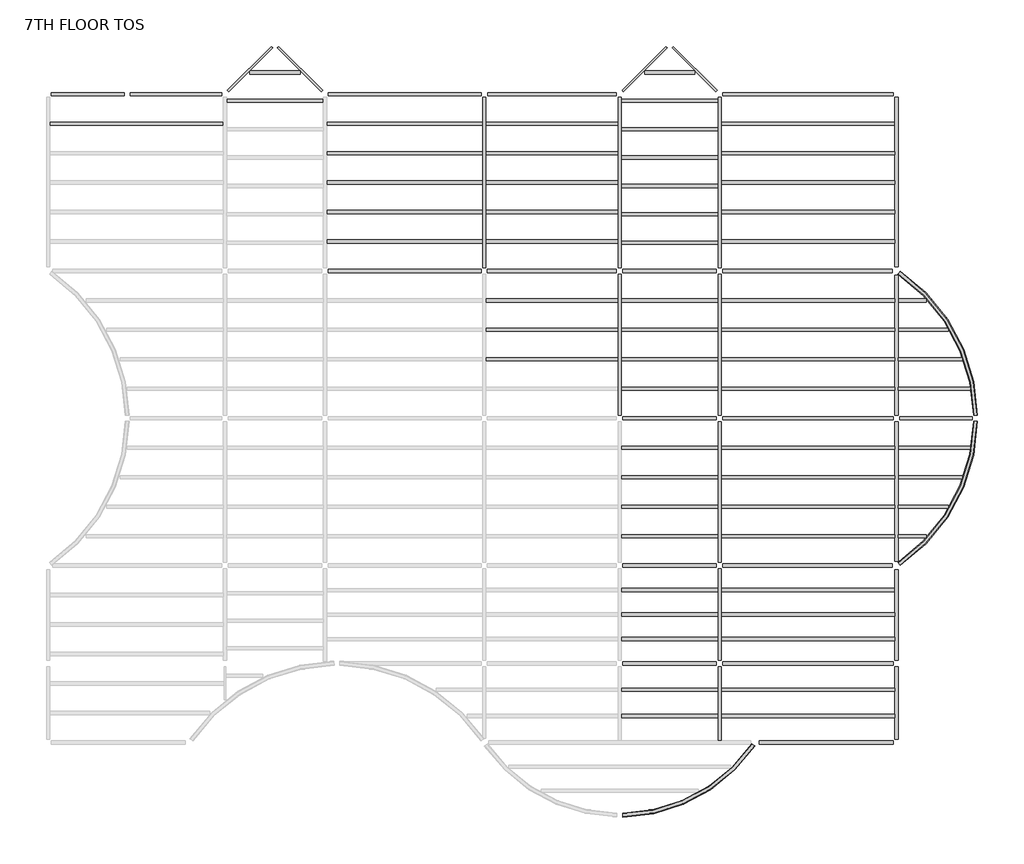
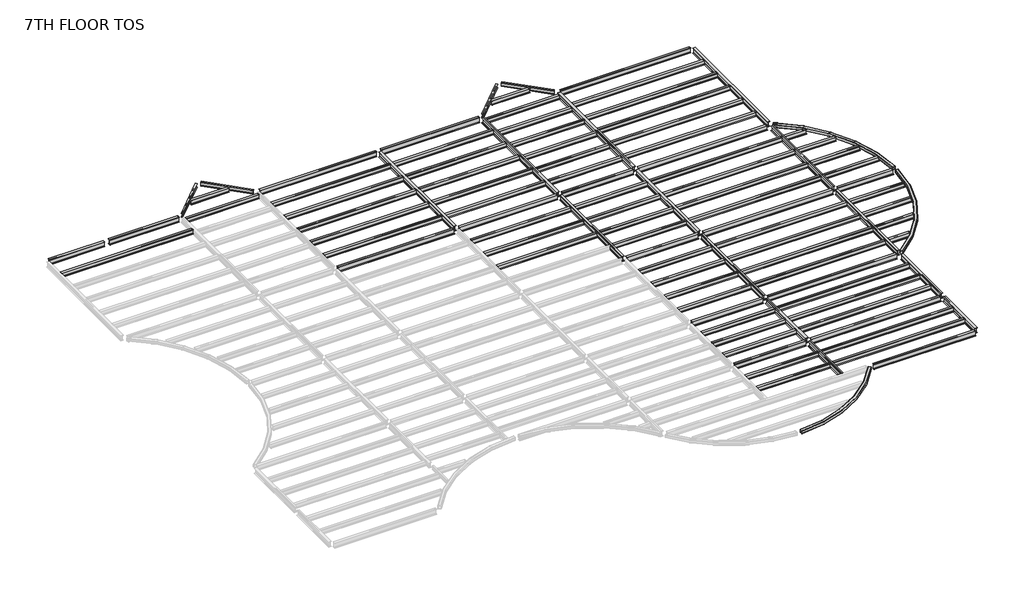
# One storey, part 2 of 2: 99 beams.
"""IFC4 building model written with IfcOpenShell, lengths in millimetres."""

from ifc_helpers import new_model, si_unit, origin, place, context, project, spatial, transform, mapped, element, save
from components import m_hss_square_hss203_2x203_2x9_5_28e91a4e, m_hss_square_hss203_2x203_2x9_5_f31329aa, m_hss_square_hss203_2x203_2x9_5_63507dff, ub_universal_beams_ub254x102x28_7812688d, ub_universal_beams_ub254x102x28_4a38c177, ub_universal_beams_ub305x165x40_c4d0385b, ub_universal_beams_ub305x165x40_19965e16, ub_universal_beams_ub305x165x40_d3abc31d, ub_universal_beams_ub305x165x40_0c73730f, ub_universal_beams_ub305x165x40_2a963f0c, ub_universal_beams_ub305x165x40_9ce7f2ee, ub_universal_beams_ub305x165x40_d184adfd, ub_universal_beams_ub305x165x40_bc7dc938, ub_universal_beams_ub305x165x40_b4233d25, ub_universal_beams_ub356x171x51_c708c058, ub_universal_beams_ub356x171x51_ef72dcdd, ub_universal_beams_ub356x171x51_10b3c54f, ub_universal_beams_ub356x171x51_4c9fd821, ub_universal_beams_ub356x171x51_d1a87c3c, ub_universal_beams_ub356x171x51_fa75724b, ub_universal_beams_ub356x171x51_68db896e, ub_universal_beams_ub356x171x51_c634c4a6, ub_universal_beams_ub356x171x51_995f1560, ub_universal_beams_ub356x171x51_dfc36663, ub_universal_beams_ub356x171x51_11d6b780, ub_universal_beams_ub356x171x51_76b2d20b, ub_universal_beams_ub356x171x51_145ecd4b, ub_universal_beams_ub356x171x51_c7dff8d2, ub_universal_beams_ub356x171x51_8a345439, ub_universal_beams_ub356x171x51_6da510e9, ub_universal_beams_ub356x171x51_e97f8d2e, ub_universal_beams_ub356x171x51_a38b99de, ub_universal_beams_ub356x171x51_d8f4cdde, ub_universal_beams_ub356x171x51_475301e6, ub_universal_beams_ub356x171x51_c03c70fb, ub_universal_beams_ub356x171x51_741bae58

model = new_model("IFC4")

# Units and contexts
model_context = context("Model", 3, world=origin())
ifc_project = project(units=[si_unit("LENGTHUNIT", "METRE", prefix="MILLI")], contexts=[model_context])

# Site, building, storey
site = spatial("IfcSite", under=ifc_project)
building = spatial("IfcBuilding", under=site)
storey = spatial("IfcBuildingStorey", under=building, Name="7TH FLOOR TOS", Elevation=31851.6)

# Beams
placement = place(None, origin())
m_hss_square_hss203_2x203_2x9_5_shape = m_hss_square_hss203_2x203_2x9_5_28e91a4e(model_context)
element("IfcBeam", 1, ObjectType="M_HSS Square : HSS203.2X203.2X9.5", at=placement, inside=storey, context=model_context, shape_type="MappedRepresentation", body=[
    mapped(m_hss_square_hss203_2x203_2x9_5_shape, transform((44027.575, 24539.575, 31750.1), x_axis=(0.8332810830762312, -0.5528495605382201, 0.0), y_axis=(0.5528495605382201, 0.8332810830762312, 0.0), z_axis=(0.0, 0.0, 1.0))),
])
m_hss_square_hss203_2x203_2x9_5_2_shape = m_hss_square_hss203_2x203_2x9_5_f31329aa(model_context)
element("IfcBeam", 2, ObjectType="M_HSS Square : HSS203.2X203.2X9.5", at=placement, inside=storey, context=model_context, shape_type="MappedRepresentation", body=[
    mapped(m_hss_square_hss203_2x203_2x9_5_2_shape, transform((44027.575, 9299.575, 31750.1), x_axis=(0.8332810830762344, 0.5528495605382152, 0.0), y_axis=(-0.5528495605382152, 0.8332810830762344, 0.0), z_axis=(0.0, 0.0, 1.0))),
])
m_hss_square_hss203_2x203_2x9_5_3_shape = m_hss_square_hss203_2x203_2x9_5_63507dff(model_context)
element("IfcBeam", 3, ObjectType="M_HSS Square : HSS203.2X203.2X9.5", at=placement, inside=storey, context=model_context, shape_type="MappedRepresentation", body=[
    mapped(m_hss_square_hss203_2x203_2x9_5_3_shape, transform((36716.575, 155.575, 31750.1), x_axis=(-0.5530174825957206, -0.8331696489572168, 0.0), y_axis=(0.8331696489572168, -0.5530174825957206, 0.0), z_axis=(0.0, 0.0, 1.0))),
])
ub_universal_beams_ub254x102x28_shape = ub_universal_beams_ub254x102x28_7812688d(model_context)
element("IfcBeam", 4, ObjectType="UB-Universal Beams : UB254x102x28", at=placement, inside=storey, context=model_context, shape_type="MappedRepresentation", body=[
    mapped(ub_universal_beams_ub254x102x28_shape, transform((10592.575, 34976.575, 31721.4), x_axis=(0.7071067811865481, 0.7071067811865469, 0.0), y_axis=(-0.7071067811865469, 0.7071067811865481, 0.0), z_axis=(0.0, 0.0, 1.0))),
])
element("IfcBeam", 5, ObjectType="UB-Universal Beams : UB254x102x28", at=placement, inside=storey, context=model_context, shape_type="MappedRepresentation", body=[
    mapped(ub_universal_beams_ub254x102x28_shape, transform((31004.575, 34976.575, 31721.4), x_axis=(0.7071067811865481, 0.7071067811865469, 0.0), y_axis=(-0.7071067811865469, 0.7071067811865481, 0.0), z_axis=(0.0, 0.0, 1.0))),
])
ub_universal_beams_ub254x102x28_2_shape = ub_universal_beams_ub254x102x28_4a38c177(model_context)
element("IfcBeam", 6, ObjectType="UB-Universal Beams : UB254x102x28", at=placement, inside=storey, context=model_context, shape_type="MappedRepresentation", body=[
    mapped(ub_universal_beams_ub254x102x28_2_shape, transform((13178.575, 34976.575, 31721.4), x_axis=(0.707106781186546, -0.707106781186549, 0.0), y_axis=(0.707106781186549, 0.707106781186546, 0.0), z_axis=(0.0, 0.0, 1.0))),
])
element("IfcBeam", 7, ObjectType="UB-Universal Beams : UB254x102x28", at=placement, inside=storey, context=model_context, shape_type="MappedRepresentation", body=[
    mapped(ub_universal_beams_ub254x102x28_2_shape, transform((33590.575, 34976.575, 31721.4), x_axis=(0.7071067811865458, -0.7071067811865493, 0.0), y_axis=(0.7071067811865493, 0.7071067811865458, 0.0), z_axis=(0.0, 0.0, 1.0))),
])
ub_universal_beams_ub305x165x40_shape = ub_universal_beams_ub305x165x40_c4d0385b(model_context)
element("IfcBeam", 8, ObjectType="UB-Universal Beams : UB305x165x40", at=placement, inside=storey, context=model_context, shape_type="MappedRepresentation", body=[
    mapped(ub_universal_beams_ub305x165x40_shape, transform((4727.575, 32159.575, 31699.9), x_axis=(1.0, 0.0, 0.0), y_axis=(0.0, 1.0, 0.0), z_axis=(0.0, 0.0, 1.0))),
])
element("IfcBeam", 9, ObjectType="UB-Universal Beams : UB305x165x40", at=placement, inside=storey, context=model_context, shape_type="MappedRepresentation", body=[
    mapped(ub_universal_beams_ub305x165x40_shape, transform((39455.575, 32159.575, 31699.9), x_axis=(1.0, 0.0, 0.0), y_axis=(0.0, 1.0, 0.0), z_axis=(0.0, 0.0, 1.0))),
])
element("IfcBeam", 10, ObjectType="UB-Universal Beams : UB305x165x40", at=placement, inside=storey, context=model_context, shape_type="MappedRepresentation", body=[
    mapped(ub_universal_beams_ub305x165x40_shape, transform((39455.575, 30635.575, 31699.9), x_axis=(1.0, 0.0, 0.0), y_axis=(0.0, 1.0, 0.0), z_axis=(0.0, 0.0, 1.0))),
])
element("IfcBeam", 11, ObjectType="UB-Universal Beams : UB305x165x40", at=placement, inside=storey, context=model_context, shape_type="MappedRepresentation", body=[
    mapped(ub_universal_beams_ub305x165x40_shape, transform((39455.575, 29111.575, 31699.9), x_axis=(1.0, 0.0, 0.0), y_axis=(0.0, 1.0, 0.0), z_axis=(0.0, 0.0, 1.0))),
])
element("IfcBeam", 12, ObjectType="UB-Universal Beams : UB305x165x40", at=placement, inside=storey, context=model_context, shape_type="MappedRepresentation", body=[
    mapped(ub_universal_beams_ub305x165x40_shape, transform((39455.575, 27587.575, 31699.9), x_axis=(1.0, 0.0, 0.0), y_axis=(0.0, 1.0, 0.0), z_axis=(0.0, 0.0, 1.0))),
])
element("IfcBeam", 13, ObjectType="UB-Universal Beams : UB305x165x40", at=placement, inside=storey, context=model_context, shape_type="MappedRepresentation", body=[
    mapped(ub_universal_beams_ub305x165x40_shape, transform((39455.575, 26063.575, 31699.9), x_axis=(1.0, 0.0, 0.0), y_axis=(0.0, 1.0, 0.0), z_axis=(0.0, 0.0, 1.0))),
])
element("IfcBeam", 14, ObjectType="UB-Universal Beams : UB305x165x40", at=placement, inside=storey, context=model_context, shape_type="MappedRepresentation", body=[
    mapped(ub_universal_beams_ub305x165x40_shape, transform((39455.575, 23015.575, 31699.9), x_axis=(1.0, 0.0, 0.0), y_axis=(0.0, 1.0, 0.0), z_axis=(0.0, 0.0, 1.0))),
])
element("IfcBeam", 15, ObjectType="UB-Universal Beams : UB305x165x40", at=placement, inside=storey, context=model_context, shape_type="MappedRepresentation", body=[
    mapped(ub_universal_beams_ub305x165x40_shape, transform((39455.575, 21491.575, 31699.9), x_axis=(1.0, 0.0, 0.0), y_axis=(0.0, 1.0, 0.0), z_axis=(0.0, 0.0, 1.0))),
])
element("IfcBeam", 16, ObjectType="UB-Universal Beams : UB305x165x40", at=placement, inside=storey, context=model_context, shape_type="MappedRepresentation", body=[
    mapped(ub_universal_beams_ub305x165x40_shape, transform((39455.575, 19967.575, 31699.9), x_axis=(1.0, 0.0, 0.0), y_axis=(0.0, 1.0, 0.0), z_axis=(0.0, 0.0, 1.0))),
])
element("IfcBeam", 17, ObjectType="UB-Universal Beams : UB305x165x40", at=placement, inside=storey, context=model_context, shape_type="MappedRepresentation", body=[
    mapped(ub_universal_beams_ub305x165x40_shape, transform((39455.575, 18443.575, 31699.9), x_axis=(1.0, 0.0, 0.0), y_axis=(0.0, 1.0, 0.0), z_axis=(0.0, 0.0, 1.0))),
])
element("IfcBeam", 18, ObjectType="UB-Universal Beams : UB305x165x40", at=placement, inside=storey, context=model_context, shape_type="MappedRepresentation", body=[
    mapped(ub_universal_beams_ub305x165x40_shape, transform((39455.575, 15395.575, 31699.9), x_axis=(1.0, 0.0, 0.0), y_axis=(0.0, 1.0, 0.0), z_axis=(0.0, 0.0, 1.0))),
])
element("IfcBeam", 19, ObjectType="UB-Universal Beams : UB305x165x40", at=placement, inside=storey, context=model_context, shape_type="MappedRepresentation", body=[
    mapped(ub_universal_beams_ub305x165x40_shape, transform((39455.575, 13871.575, 31699.9), x_axis=(1.0, 0.0, 0.0), y_axis=(0.0, 1.0, 0.0), z_axis=(0.0, 0.0, 1.0))),
])
element("IfcBeam", 20, ObjectType="UB-Universal Beams : UB305x165x40", at=placement, inside=storey, context=model_context, shape_type="MappedRepresentation", body=[
    mapped(ub_universal_beams_ub305x165x40_shape, transform((39455.575, 12347.575, 31699.9), x_axis=(1.0, 0.0, 0.0), y_axis=(0.0, 1.0, 0.0), z_axis=(0.0, 0.0, 1.0))),
])
element("IfcBeam", 21, ObjectType="UB-Universal Beams : UB305x165x40", at=placement, inside=storey, context=model_context, shape_type="MappedRepresentation", body=[
    mapped(ub_universal_beams_ub305x165x40_shape, transform((39455.575, 10823.575, 31699.9), x_axis=(1.0, 0.0, 0.0), y_axis=(0.0, 1.0, 0.0), z_axis=(0.0, 0.0, 1.0))),
])
element("IfcBeam", 22, ObjectType="UB-Universal Beams : UB305x165x40", at=placement, inside=storey, context=model_context, shape_type="MappedRepresentation", body=[
    mapped(ub_universal_beams_ub305x165x40_shape, transform((39455.575, 5508.325, 31699.9), x_axis=(-1.0, 0.0, 0.0), y_axis=(0.0, -1.0, 0.0), z_axis=(0.0, 0.0, 1.0))),
])
element("IfcBeam", 23, ObjectType="UB-Universal Beams : UB305x165x40", at=placement, inside=storey, context=model_context, shape_type="MappedRepresentation", body=[
    mapped(ub_universal_beams_ub305x165x40_shape, transform((39455.575, 6772.075, 31699.9), x_axis=(-1.0, 0.0, 0.0), y_axis=(0.0, -1.0, 0.0), z_axis=(0.0, 0.0, 1.0))),
])
element("IfcBeam", 24, ObjectType="UB-Universal Beams : UB305x165x40", at=placement, inside=storey, context=model_context, shape_type="MappedRepresentation", body=[
    mapped(ub_universal_beams_ub305x165x40_shape, transform((39455.575, 8035.825, 31699.9), x_axis=(-1.0, 0.0, 0.0), y_axis=(0.0, -1.0, 0.0), z_axis=(0.0, 0.0, 1.0))),
])
element("IfcBeam", 25, ObjectType="UB-Universal Beams : UB305x165x40", at=placement, inside=storey, context=model_context, shape_type="MappedRepresentation", body=[
    mapped(ub_universal_beams_ub305x165x40_shape, transform((39455.575, 1518.575, 31699.9), x_axis=(-1.0, 0.0, 0.0), y_axis=(0.0, -1.0, 0.0), z_axis=(0.0, 0.0, 1.0))),
])
element("IfcBeam", 26, ObjectType="UB-Universal Beams : UB305x165x40", at=placement, inside=storey, context=model_context, shape_type="MappedRepresentation", body=[
    mapped(ub_universal_beams_ub305x165x40_shape, transform((39455.575, 2881.575, 31699.9), x_axis=(-1.0, 0.0, 0.0), y_axis=(0.0, -1.0, 0.0), z_axis=(0.0, 0.0, 1.0))),
])
ub_universal_beams_ub305x165x40_2_shape = ub_universal_beams_ub305x165x40_19965e16(model_context)
element("IfcBeam", 27, ObjectType="UB-Universal Beams : UB305x165x40", at=placement, inside=storey, context=model_context, shape_type="MappedRepresentation", body=[
    mapped(ub_universal_beams_ub305x165x40_2_shape, transform((11885.575, 34803.325, 31699.9), x_axis=(1.0, 0.0, 0.0), y_axis=(0.0, 1.0, 0.0), z_axis=(0.0, 0.0, 1.0))),
])
element("IfcBeam", 28, ObjectType="UB-Universal Beams : UB305x165x40", at=placement, inside=storey, context=model_context, shape_type="MappedRepresentation", body=[
    mapped(ub_universal_beams_ub305x165x40_2_shape, transform((32297.575, 34803.325, 31699.9), x_axis=(1.0, 0.0, 0.0), y_axis=(0.0, 1.0, 0.0), z_axis=(0.0, 0.0, 1.0))),
])
ub_universal_beams_ub305x165x40_3_shape = ub_universal_beams_ub305x165x40_d3abc31d(model_context)
element("IfcBeam", 29, ObjectType="UB-Universal Beams : UB305x165x40", at=placement, inside=storey, context=model_context, shape_type="MappedRepresentation", body=[
    mapped(ub_universal_beams_ub305x165x40_3_shape, transform((11885.575, 33337.075, 31699.9), x_axis=(1.0, 0.0, 0.0), y_axis=(0.0, 1.0, 0.0), z_axis=(0.0, 0.0, 1.0))),
])
element("IfcBeam", 30, ObjectType="UB-Universal Beams : UB305x165x40", at=placement, inside=storey, context=model_context, shape_type="MappedRepresentation", body=[
    mapped(ub_universal_beams_ub305x165x40_3_shape, transform((32297.575, 33337.075, 31699.9), x_axis=(1.0, 0.0, 0.0), y_axis=(0.0, 1.0, 0.0), z_axis=(0.0, 0.0, 1.0))),
])
element("IfcBeam", 31, ObjectType="UB-Universal Beams : UB305x165x40", at=placement, inside=storey, context=model_context, shape_type="MappedRepresentation", body=[
    mapped(ub_universal_beams_ub305x165x40_3_shape, transform((32297.575, 31870.825, 31699.9), x_axis=(1.0, 0.0, 0.0), y_axis=(0.0, 1.0, 0.0), z_axis=(0.0, 0.0, 1.0))),
])
element("IfcBeam", 32, ObjectType="UB-Universal Beams : UB305x165x40", at=placement, inside=storey, context=model_context, shape_type="MappedRepresentation", body=[
    mapped(ub_universal_beams_ub305x165x40_3_shape, transform((32297.575, 30404.575, 31699.9), x_axis=(1.0, 0.0, 0.0), y_axis=(0.0, 1.0, 0.0), z_axis=(0.0, 0.0, 1.0))),
])
element("IfcBeam", 33, ObjectType="UB-Universal Beams : UB305x165x40", at=placement, inside=storey, context=model_context, shape_type="MappedRepresentation", body=[
    mapped(ub_universal_beams_ub305x165x40_3_shape, transform((32297.575, 28938.325, 31699.9), x_axis=(1.0, 0.0, 0.0), y_axis=(0.0, 1.0, 0.0), z_axis=(0.0, 0.0, 1.0))),
])
element("IfcBeam", 34, ObjectType="UB-Universal Beams : UB305x165x40", at=placement, inside=storey, context=model_context, shape_type="MappedRepresentation", body=[
    mapped(ub_universal_beams_ub305x165x40_3_shape, transform((32297.575, 27472.075, 31699.9), x_axis=(1.0, 0.0, 0.0), y_axis=(0.0, 1.0, 0.0), z_axis=(0.0, 0.0, 1.0))),
])
element("IfcBeam", 35, ObjectType="UB-Universal Beams : UB305x165x40", at=placement, inside=storey, context=model_context, shape_type="MappedRepresentation", body=[
    mapped(ub_universal_beams_ub305x165x40_3_shape, transform((32297.575, 26005.825, 31699.9), x_axis=(1.0, 0.0, 0.0), y_axis=(0.0, 1.0, 0.0), z_axis=(0.0, 0.0, 1.0))),
])
element("IfcBeam", 36, ObjectType="UB-Universal Beams : UB305x165x40", at=placement, inside=storey, context=model_context, shape_type="MappedRepresentation", body=[
    mapped(ub_universal_beams_ub305x165x40_3_shape, transform((32297.575, 1518.575, 31699.9), x_axis=(-1.0, 0.0, 0.0), y_axis=(0.0, -1.0, 0.0), z_axis=(0.0, 0.0, 1.0))),
])
element("IfcBeam", 37, ObjectType="UB-Universal Beams : UB305x165x40", at=placement, inside=storey, context=model_context, shape_type="MappedRepresentation", body=[
    mapped(ub_universal_beams_ub305x165x40_3_shape, transform((32297.575, 2881.575, 31699.9), x_axis=(-1.0, 0.0, 0.0), y_axis=(0.0, -1.0, 0.0), z_axis=(0.0, 0.0, 1.0))),
])
element("IfcBeam", 38, ObjectType="UB-Universal Beams : UB305x165x40", at=placement, inside=storey, context=model_context, shape_type="MappedRepresentation", body=[
    mapped(ub_universal_beams_ub305x165x40_3_shape, transform((32297.575, 5508.325, 31699.9), x_axis=(-1.0, 0.0, 0.0), y_axis=(0.0, -1.0, 0.0), z_axis=(0.0, 0.0, 1.0))),
])
element("IfcBeam", 39, ObjectType="UB-Universal Beams : UB305x165x40", at=placement, inside=storey, context=model_context, shape_type="MappedRepresentation", body=[
    mapped(ub_universal_beams_ub305x165x40_3_shape, transform((32297.575, 6772.075, 31699.9), x_axis=(-1.0, 0.0, 0.0), y_axis=(0.0, -1.0, 0.0), z_axis=(0.0, 0.0, 1.0))),
])
element("IfcBeam", 40, ObjectType="UB-Universal Beams : UB305x165x40", at=placement, inside=storey, context=model_context, shape_type="MappedRepresentation", body=[
    mapped(ub_universal_beams_ub305x165x40_3_shape, transform((32297.575, 8035.825, 31699.9), x_axis=(-1.0, 0.0, 0.0), y_axis=(0.0, -1.0, 0.0), z_axis=(0.0, 0.0, 1.0))),
])
element("IfcBeam", 41, ObjectType="UB-Universal Beams : UB305x165x40", at=placement, inside=storey, context=model_context, shape_type="MappedRepresentation", body=[
    mapped(ub_universal_beams_ub305x165x40_3_shape, transform((32297.575, 15395.575, 31699.9), x_axis=(1.0, 0.0, 0.0), y_axis=(0.0, 1.0, 0.0), z_axis=(0.0, 0.0, 1.0))),
])
element("IfcBeam", 42, ObjectType="UB-Universal Beams : UB305x165x40", at=placement, inside=storey, context=model_context, shape_type="MappedRepresentation", body=[
    mapped(ub_universal_beams_ub305x165x40_3_shape, transform((32297.575, 13871.575, 31699.9), x_axis=(1.0, 0.0, 0.0), y_axis=(0.0, 1.0, 0.0), z_axis=(0.0, 0.0, 1.0))),
])
element("IfcBeam", 43, ObjectType="UB-Universal Beams : UB305x165x40", at=placement, inside=storey, context=model_context, shape_type="MappedRepresentation", body=[
    mapped(ub_universal_beams_ub305x165x40_3_shape, transform((32297.575, 12347.575, 31699.9), x_axis=(1.0, 0.0, 0.0), y_axis=(0.0, 1.0, 0.0), z_axis=(0.0, 0.0, 1.0))),
])
element("IfcBeam", 44, ObjectType="UB-Universal Beams : UB305x165x40", at=placement, inside=storey, context=model_context, shape_type="MappedRepresentation", body=[
    mapped(ub_universal_beams_ub305x165x40_3_shape, transform((32297.575, 10823.575, 31699.9), x_axis=(1.0, 0.0, 0.0), y_axis=(0.0, 1.0, 0.0), z_axis=(0.0, 0.0, 1.0))),
])
element("IfcBeam", 45, ObjectType="UB-Universal Beams : UB305x165x40", at=placement, inside=storey, context=model_context, shape_type="MappedRepresentation", body=[
    mapped(ub_universal_beams_ub305x165x40_3_shape, transform((32297.575, 23015.575, 31699.9), x_axis=(1.0, 0.0, 0.0), y_axis=(0.0, 1.0, 0.0), z_axis=(0.0, 0.0, 1.0))),
])
element("IfcBeam", 46, ObjectType="UB-Universal Beams : UB305x165x40", at=placement, inside=storey, context=model_context, shape_type="MappedRepresentation", body=[
    mapped(ub_universal_beams_ub305x165x40_3_shape, transform((32297.575, 21491.575, 31699.9), x_axis=(1.0, 0.0, 0.0), y_axis=(0.0, 1.0, 0.0), z_axis=(0.0, 0.0, 1.0))),
])
element("IfcBeam", 47, ObjectType="UB-Universal Beams : UB305x165x40", at=placement, inside=storey, context=model_context, shape_type="MappedRepresentation", body=[
    mapped(ub_universal_beams_ub305x165x40_3_shape, transform((32297.575, 19967.575, 31699.9), x_axis=(1.0, 0.0, 0.0), y_axis=(0.0, 1.0, 0.0), z_axis=(0.0, 0.0, 1.0))),
])
element("IfcBeam", 48, ObjectType="UB-Universal Beams : UB305x165x40", at=placement, inside=storey, context=model_context, shape_type="MappedRepresentation", body=[
    mapped(ub_universal_beams_ub305x165x40_3_shape, transform((32297.575, 18443.575, 31699.9), x_axis=(1.0, 0.0, 0.0), y_axis=(0.0, 1.0, 0.0), z_axis=(0.0, 0.0, 1.0))),
])
ub_universal_beams_ub305x165x40_4_shape = ub_universal_beams_ub305x165x40_0c73730f(model_context)
element("IfcBeam", 49, ObjectType="UB-Universal Beams : UB305x165x40", at=placement, inside=storey, context=model_context, shape_type="MappedRepresentation", body=[
    mapped(ub_universal_beams_ub305x165x40_4_shape, transform((18591.075, 32159.575, 31699.9), x_axis=(1.0, 0.0, 0.0), y_axis=(0.0, 1.0, 0.0), z_axis=(0.0, 0.0, 1.0))),
])
element("IfcBeam", 50, ObjectType="UB-Universal Beams : UB305x165x40", at=placement, inside=storey, context=model_context, shape_type="MappedRepresentation", body=[
    mapped(ub_universal_beams_ub305x165x40_4_shape, transform((18591.075, 30635.575, 31699.9), x_axis=(1.0, 0.0, 0.0), y_axis=(0.0, 1.0, 0.0), z_axis=(0.0, 0.0, 1.0))),
])
element("IfcBeam", 51, ObjectType="UB-Universal Beams : UB305x165x40", at=placement, inside=storey, context=model_context, shape_type="MappedRepresentation", body=[
    mapped(ub_universal_beams_ub305x165x40_4_shape, transform((18591.075, 29111.575, 31699.9), x_axis=(1.0, 0.0, 0.0), y_axis=(0.0, 1.0, 0.0), z_axis=(0.0, 0.0, 1.0))),
])
element("IfcBeam", 52, ObjectType="UB-Universal Beams : UB305x165x40", at=placement, inside=storey, context=model_context, shape_type="MappedRepresentation", body=[
    mapped(ub_universal_beams_ub305x165x40_4_shape, transform((18591.075, 27587.575, 31699.9), x_axis=(1.0, 0.0, 0.0), y_axis=(0.0, 1.0, 0.0), z_axis=(0.0, 0.0, 1.0))),
])
element("IfcBeam", 53, ObjectType="UB-Universal Beams : UB305x165x40", at=placement, inside=storey, context=model_context, shape_type="MappedRepresentation", body=[
    mapped(ub_universal_beams_ub305x165x40_4_shape, transform((18591.075, 26063.575, 31699.9), x_axis=(1.0, 0.0, 0.0), y_axis=(0.0, 1.0, 0.0), z_axis=(0.0, 0.0, 1.0))),
])
ub_universal_beams_ub305x165x40_5_shape = ub_universal_beams_ub305x165x40_2a963f0c(model_context)
element("IfcBeam", 54, ObjectType="UB-Universal Beams : UB305x165x40", at=placement, inside=storey, context=model_context, shape_type="MappedRepresentation", body=[
    mapped(ub_universal_beams_ub305x165x40_5_shape, transform((26211.075, 32159.575, 31699.9), x_axis=(1.0, 0.0, 0.0), y_axis=(0.0, 1.0, 0.0), z_axis=(0.0, 0.0, 1.0))),
])
element("IfcBeam", 55, ObjectType="UB-Universal Beams : UB305x165x40", at=placement, inside=storey, context=model_context, shape_type="MappedRepresentation", body=[
    mapped(ub_universal_beams_ub305x165x40_5_shape, transform((26211.075, 30635.575, 31699.9), x_axis=(1.0, 0.0, 0.0), y_axis=(0.0, 1.0, 0.0), z_axis=(0.0, 0.0, 1.0))),
])
element("IfcBeam", 56, ObjectType="UB-Universal Beams : UB305x165x40", at=placement, inside=storey, context=model_context, shape_type="MappedRepresentation", body=[
    mapped(ub_universal_beams_ub305x165x40_5_shape, transform((26211.075, 29111.575, 31699.9), x_axis=(1.0, 0.0, 0.0), y_axis=(0.0, 1.0, 0.0), z_axis=(0.0, 0.0, 1.0))),
])
element("IfcBeam", 57, ObjectType="UB-Universal Beams : UB305x165x40", at=placement, inside=storey, context=model_context, shape_type="MappedRepresentation", body=[
    mapped(ub_universal_beams_ub305x165x40_5_shape, transform((26211.075, 27587.575, 31699.9), x_axis=(1.0, 0.0, 0.0), y_axis=(0.0, 1.0, 0.0), z_axis=(0.0, 0.0, 1.0))),
])
element("IfcBeam", 58, ObjectType="UB-Universal Beams : UB305x165x40", at=placement, inside=storey, context=model_context, shape_type="MappedRepresentation", body=[
    mapped(ub_universal_beams_ub305x165x40_5_shape, transform((26211.075, 26063.575, 31699.9), x_axis=(1.0, 0.0, 0.0), y_axis=(0.0, 1.0, 0.0), z_axis=(0.0, 0.0, 1.0))),
])
element("IfcBeam", 59, ObjectType="UB-Universal Beams : UB305x165x40", at=placement, inside=storey, context=model_context, shape_type="MappedRepresentation", body=[
    mapped(ub_universal_beams_ub305x165x40_5_shape, transform((26211.075, 23015.575, 31699.9), x_axis=(1.0, 0.0, 0.0), y_axis=(0.0, 1.0, 0.0), z_axis=(0.0, 0.0, 1.0))),
])
element("IfcBeam", 60, ObjectType="UB-Universal Beams : UB305x165x40", at=placement, inside=storey, context=model_context, shape_type="MappedRepresentation", body=[
    mapped(ub_universal_beams_ub305x165x40_5_shape, transform((26211.075, 21491.575, 31699.9), x_axis=(1.0, 0.0, 0.0), y_axis=(0.0, 1.0, 0.0), z_axis=(0.0, 0.0, 1.0))),
])
element("IfcBeam", 61, ObjectType="UB-Universal Beams : UB305x165x40", at=placement, inside=storey, context=model_context, shape_type="MappedRepresentation", body=[
    mapped(ub_universal_beams_ub305x165x40_5_shape, transform((26211.075, 19967.575, 31699.9), x_axis=(1.0, 0.0, 0.0), y_axis=(0.0, 1.0, 0.0), z_axis=(0.0, 0.0, 1.0))),
])
ub_universal_beams_ub305x165x40_6_shape = ub_universal_beams_ub305x165x40_9ce7f2ee(model_context)
element("IfcBeam", 62, ObjectType="UB-Universal Beams : UB305x165x40", at=placement, inside=storey, context=model_context, shape_type="MappedRepresentation", body=[
    mapped(ub_universal_beams_ub305x165x40_6_shape, transform((44907.9405309, 23015.575, 31699.9), x_axis=(1.0, 0.0, 0.0), y_axis=(0.0, 1.0, 0.0), z_axis=(0.0, 0.0, 1.0))),
])
element("IfcBeam", 63, ObjectType="UB-Universal Beams : UB305x165x40", at=placement, inside=storey, context=model_context, shape_type="MappedRepresentation", body=[
    mapped(ub_universal_beams_ub305x165x40_6_shape, transform((44907.9405309, 10823.575, 31699.9), x_axis=(1.0, 0.0, 0.0), y_axis=(0.0, 1.0, 0.0), z_axis=(0.0, 0.0, 1.0))),
])
ub_universal_beams_ub305x165x40_7_shape = ub_universal_beams_ub305x165x40_d184adfd(model_context)
element("IfcBeam", 64, ObjectType="UB-Universal Beams : UB305x165x40", at=placement, inside=storey, context=model_context, shape_type="MappedRepresentation", body=[
    mapped(ub_universal_beams_ub305x165x40_7_shape, transform((45459.5874928, 21491.575, 31699.9), x_axis=(1.0, 0.0, 0.0), y_axis=(0.0, 1.0, 0.0), z_axis=(0.0, 0.0, 1.0))),
])
element("IfcBeam", 65, ObjectType="UB-Universal Beams : UB305x165x40", at=placement, inside=storey, context=model_context, shape_type="MappedRepresentation", body=[
    mapped(ub_universal_beams_ub305x165x40_7_shape, transform((45459.5874928, 12347.575, 31699.9), x_axis=(1.0, 0.0, 0.0), y_axis=(0.0, 1.0, 0.0), z_axis=(0.0, 0.0, 1.0))),
])
ub_universal_beams_ub305x165x40_8_shape = ub_universal_beams_ub305x165x40_bc7dc938(model_context)
element("IfcBeam", 66, ObjectType="UB-Universal Beams : UB305x165x40", at=placement, inside=storey, context=model_context, shape_type="MappedRepresentation", body=[
    mapped(ub_universal_beams_ub305x165x40_8_shape, transform((45810.6153272, 19967.575, 31699.9), x_axis=(1.0, 0.0, 0.0), y_axis=(0.0, 1.0, 0.0), z_axis=(0.0, 0.0, 1.0))),
])
element("IfcBeam", 67, ObjectType="UB-Universal Beams : UB305x165x40", at=placement, inside=storey, context=model_context, shape_type="MappedRepresentation", body=[
    mapped(ub_universal_beams_ub305x165x40_8_shape, transform((45810.6153272, 13871.575, 31699.9), x_axis=(1.0, 0.0, 0.0), y_axis=(0.0, 1.0, 0.0), z_axis=(0.0, 0.0, 1.0))),
])
ub_universal_beams_ub305x165x40_9_shape = ub_universal_beams_ub305x165x40_b4233d25(model_context)
element("IfcBeam", 68, ObjectType="UB-Universal Beams : UB305x165x40", at=placement, inside=storey, context=model_context, shape_type="MappedRepresentation", body=[
    mapped(ub_universal_beams_ub305x165x40_9_shape, transform((46008.1318611, 18443.575, 31699.9), x_axis=(1.0, 0.0, 0.0), y_axis=(0.0, 1.0, 0.0), z_axis=(0.0, 0.0, 1.0))),
])
element("IfcBeam", 69, ObjectType="UB-Universal Beams : UB305x165x40", at=placement, inside=storey, context=model_context, shape_type="MappedRepresentation", body=[
    mapped(ub_universal_beams_ub305x165x40_9_shape, transform((46008.1318611, 15395.575, 31699.9), x_axis=(1.0, 0.0, 0.0), y_axis=(0.0, 1.0, 0.0), z_axis=(0.0, 0.0, 1.0))),
])
ub_universal_beams_ub356x171x51_shape = ub_universal_beams_ub356x171x51_c708c058(model_context)
element("IfcBeam", 70, ObjectType="UB-Universal Beams : UB356x171x51", at=placement, inside=storey, context=model_context, shape_type="MappedRepresentation", body=[
    mapped(ub_universal_beams_ub356x171x51_shape, transform((2200.075, 33683.575, 31674.1), x_axis=(1.0, 0.0, 0.0), y_axis=(0.0, 1.0, 0.0), z_axis=(0.0, 0.0, 1.0))),
])
ub_universal_beams_ub356x171x51_2_shape = ub_universal_beams_ub356x171x51_ef72dcdd(model_context)
element("IfcBeam", 71, ObjectType="UB-Universal Beams : UB356x171x51", at=placement, inside=storey, context=model_context, shape_type="MappedRepresentation", body=[
    mapped(ub_universal_beams_ub356x171x51_2_shape, transform((6772.075, 33683.575, 31674.1), x_axis=(1.0, 0.0, 0.0), y_axis=(0.0, 1.0, 0.0), z_axis=(0.0, 0.0, 1.0))),
])
element("IfcBeam", 72, ObjectType="UB-Universal Beams : UB356x171x51", at=placement, inside=storey, context=model_context, shape_type="MappedRepresentation", body=[
    mapped(ub_universal_beams_ub356x171x51_2_shape, transform((34883.575, 6772.075, 31674.1), x_axis=(0.0, -1.0, 0.0), y_axis=(1.0, 0.0, 0.0), z_axis=(0.0, 0.0, 1.0))),
])
ub_universal_beams_ub356x171x51_3_shape = ub_universal_beams_ub356x171x51_10b3c54f(model_context)
element("IfcBeam", 73, ObjectType="UB-Universal Beams : UB356x171x51", at=placement, inside=storey, context=model_context, shape_type="MappedRepresentation", body=[
    mapped(ub_universal_beams_ub356x171x51_3_shape, transform((18591.075, 33683.575, 31674.1), x_axis=(1.0, 0.0, 0.0), y_axis=(0.0, 1.0, 0.0), z_axis=(0.0, 0.0, 1.0))),
])
ub_universal_beams_ub356x171x51_4_shape = ub_universal_beams_ub356x171x51_4c9fd821(model_context)
element("IfcBeam", 74, ObjectType="UB-Universal Beams : UB356x171x51", at=placement, inside=storey, context=model_context, shape_type="MappedRepresentation", body=[
    mapped(ub_universal_beams_ub356x171x51_4_shape, transform((26211.075, 33683.575, 31674.1), x_axis=(1.0, 0.0, 0.0), y_axis=(0.0, 1.0, 0.0), z_axis=(0.0, 0.0, 1.0))),
])
ub_universal_beams_ub356x171x51_5_shape = ub_universal_beams_ub356x171x51_d1a87c3c(model_context)
element("IfcBeam", 75, ObjectType="UB-Universal Beams : UB356x171x51", at=placement, inside=storey, context=model_context, shape_type="MappedRepresentation", body=[
    mapped(ub_universal_beams_ub356x171x51_5_shape, transform((39455.575, 33683.575, 31674.1), x_axis=(1.0, 0.0, 0.0), y_axis=(0.0, 1.0, 0.0), z_axis=(0.0, 0.0, 1.0))),
])
ub_universal_beams_ub356x171x51_6_shape = ub_universal_beams_ub356x171x51_fa75724b(model_context)
element("IfcBeam", 76, ObjectType="UB-Universal Beams : UB356x171x51", at=placement, inside=storey, context=model_context, shape_type="MappedRepresentation", body=[
    mapped(ub_universal_beams_ub356x171x51_6_shape, transform((44027.575, 29111.575, 31674.1), x_axis=(0.0, -1.0, 0.0), y_axis=(1.0, 0.0, 0.0), z_axis=(0.0, 0.0, 1.0))),
])
ub_universal_beams_ub356x171x51_7_shape = ub_universal_beams_ub356x171x51_68db896e(model_context)
element("IfcBeam", 77, ObjectType="UB-Universal Beams : UB356x171x51", at=placement, inside=storey, context=model_context, shape_type="MappedRepresentation", body=[
    mapped(ub_universal_beams_ub356x171x51_7_shape, transform((44027.575, 6772.075, 31674.1), x_axis=(0.0, -1.0, 0.0), y_axis=(1.0, 0.0, 0.0), z_axis=(0.0, 0.0, 1.0))),
])
ub_universal_beams_ub356x171x51_8_shape = ub_universal_beams_ub356x171x51_c634c4a6(model_context)
element("IfcBeam", 78, ObjectType="UB-Universal Beams : UB356x171x51", at=placement, inside=storey, context=model_context, shape_type="MappedRepresentation", body=[
    mapped(ub_universal_beams_ub356x171x51_8_shape, transform((44027.575, 2200.075, 31674.1), x_axis=(0.0, -1.0, 0.0), y_axis=(1.0, 0.0, 0.0), z_axis=(0.0, 0.0, 1.0))),
])
ub_universal_beams_ub356x171x51_9_shape = ub_universal_beams_ub356x171x51_995f1560(model_context)
element("IfcBeam", 79, ObjectType="UB-Universal Beams : UB356x171x51", at=placement, inside=storey, context=model_context, shape_type="MappedRepresentation", body=[
    mapped(ub_universal_beams_ub356x171x51_9_shape, transform((40372.075, 155.575, 31674.1), x_axis=(-1.0, 0.0, 0.0), y_axis=(0.0, -1.0, 0.0), z_axis=(0.0, 0.0, 1.0))),
])
ub_universal_beams_ub356x171x51_10_shape = ub_universal_beams_ub356x171x51_dfc36663(model_context)
element("IfcBeam", 80, ObjectType="UB-Universal Beams : UB356x171x51", at=placement, inside=storey, context=model_context, shape_type="MappedRepresentation", body=[
    mapped(ub_universal_beams_ub356x171x51_10_shape, transform((46072.075, 16919.575, 31674.1), x_axis=(1.0, 0.0, 0.0), y_axis=(0.0, 1.0, 0.0), z_axis=(0.0, 0.0, 1.0))),
])
ub_universal_beams_ub356x171x51_11_shape = ub_universal_beams_ub356x171x51_11d6b780(model_context)
element("IfcBeam", 81, ObjectType="UB-Universal Beams : UB356x171x51", at=placement, inside=storey, context=model_context, shape_type="MappedRepresentation", body=[
    mapped(ub_universal_beams_ub356x171x51_11_shape, transform((32297.575, 24539.575, 31674.1), x_axis=(1.0, 0.0, 0.0), y_axis=(0.0, 1.0, 0.0), z_axis=(0.0, 0.0, 1.0))),
])
element("IfcBeam", 82, ObjectType="UB-Universal Beams : UB356x171x51", at=placement, inside=storey, context=model_context, shape_type="MappedRepresentation", body=[
    mapped(ub_universal_beams_ub356x171x51_11_shape, transform((32297.575, 9299.575, 31674.1), x_axis=(-1.0, 0.0, 0.0), y_axis=(0.0, -1.0, 0.0), z_axis=(0.0, 0.0, 1.0))),
])
element("IfcBeam", 83, ObjectType="UB-Universal Beams : UB356x171x51", at=placement, inside=storey, context=model_context, shape_type="MappedRepresentation", body=[
    mapped(ub_universal_beams_ub356x171x51_11_shape, transform((32297.575, 16919.575, 31674.1), x_axis=(1.0, 0.0, 0.0), y_axis=(0.0, 1.0, 0.0), z_axis=(0.0, 0.0, 1.0))),
])
element("IfcBeam", 84, ObjectType="UB-Universal Beams : UB356x171x51", at=placement, inside=storey, context=model_context, shape_type="MappedRepresentation", body=[
    mapped(ub_universal_beams_ub356x171x51_11_shape, transform((32297.575, 4244.575, 31674.1), x_axis=(-1.0, 0.0, 0.0), y_axis=(0.0, -1.0, 0.0), z_axis=(0.0, 0.0, 1.0))),
])
ub_universal_beams_ub356x171x51_12_shape = ub_universal_beams_ub356x171x51_76b2d20b(model_context)
element("IfcBeam", 85, ObjectType="UB-Universal Beams : UB356x171x51", at=placement, inside=storey, context=model_context, shape_type="MappedRepresentation", body=[
    mapped(ub_universal_beams_ub356x171x51_12_shape, transform((18591.075, 24539.575, 31674.1), x_axis=(1.0, 0.0, 0.0), y_axis=(0.0, 1.0, 0.0), z_axis=(0.0, 0.0, 1.0))),
])
ub_universal_beams_ub356x171x51_13_shape = ub_universal_beams_ub356x171x51_145ecd4b(model_context)
element("IfcBeam", 86, ObjectType="UB-Universal Beams : UB356x171x51", at=placement, inside=storey, context=model_context, shape_type="MappedRepresentation", body=[
    mapped(ub_universal_beams_ub356x171x51_13_shape, transform((26211.075, 24539.575, 31674.1), x_axis=(1.0, 0.0, 0.0), y_axis=(0.0, 1.0, 0.0), z_axis=(0.0, 0.0, 1.0))),
])
ub_universal_beams_ub356x171x51_14_shape = ub_universal_beams_ub356x171x51_c7dff8d2(model_context)
element("IfcBeam", 87, ObjectType="UB-Universal Beams : UB356x171x51", at=placement, inside=storey, context=model_context, shape_type="MappedRepresentation", body=[
    mapped(ub_universal_beams_ub356x171x51_14_shape, transform((39455.575, 24539.575, 31674.1), x_axis=(1.0, 0.0, 0.0), y_axis=(0.0, 1.0, 0.0), z_axis=(0.0, 0.0, 1.0))),
])
ub_universal_beams_ub356x171x51_15_shape = ub_universal_beams_ub356x171x51_8a345439(model_context)
element("IfcBeam", 88, ObjectType="UB-Universal Beams : UB356x171x51", at=placement, inside=storey, context=model_context, shape_type="MappedRepresentation", body=[
    mapped(ub_universal_beams_ub356x171x51_15_shape, transform((44027.575, 20729.575, 31674.1), x_axis=(0.0, -1.0, 0.0), y_axis=(1.0, 0.0, 0.0), z_axis=(0.0, 0.0, 1.0))),
])
ub_universal_beams_ub356x171x51_16_shape = ub_universal_beams_ub356x171x51_6da510e9(model_context)
element("IfcBeam", 89, ObjectType="UB-Universal Beams : UB356x171x51", at=placement, inside=storey, context=model_context, shape_type="MappedRepresentation", body=[
    mapped(ub_universal_beams_ub356x171x51_16_shape, transform((44027.575, 13109.575, 31674.1), x_axis=(0.0, -1.0, 0.0), y_axis=(1.0, 0.0, 0.0), z_axis=(0.0, 0.0, 1.0))),
])
ub_universal_beams_ub356x171x51_17_shape = ub_universal_beams_ub356x171x51_e97f8d2e(model_context)
element("IfcBeam", 90, ObjectType="UB-Universal Beams : UB356x171x51", at=placement, inside=storey, context=model_context, shape_type="MappedRepresentation", body=[
    mapped(ub_universal_beams_ub356x171x51_17_shape, transform((39455.575, 9299.575, 31674.1), x_axis=(-1.0, 0.0, 0.0), y_axis=(0.0, -1.0, 0.0), z_axis=(0.0, 0.0, 1.0))),
])
ub_universal_beams_ub356x171x51_18_shape = ub_universal_beams_ub356x171x51_a38b99de(model_context)
element("IfcBeam", 91, ObjectType="UB-Universal Beams : UB356x171x51", at=placement, inside=storey, context=model_context, shape_type="MappedRepresentation", body=[
    mapped(ub_universal_beams_ub356x171x51_18_shape, transform((34883.575, 20729.575, 31674.1), x_axis=(0.0, -1.0, 0.0), y_axis=(1.0, 0.0, 0.0), z_axis=(0.0, 0.0, 1.0))),
])
element("IfcBeam", 92, ObjectType="UB-Universal Beams : UB356x171x51", at=placement, inside=storey, context=model_context, shape_type="MappedRepresentation", body=[
    mapped(ub_universal_beams_ub356x171x51_18_shape, transform((34883.575, 13109.575, 31674.1), x_axis=(0.0, -1.0, 0.0), y_axis=(1.0, 0.0, 0.0), z_axis=(0.0, 0.0, 1.0))),
])
element("IfcBeam", 93, ObjectType="UB-Universal Beams : UB356x171x51", at=placement, inside=storey, context=model_context, shape_type="MappedRepresentation", body=[
    mapped(ub_universal_beams_ub356x171x51_18_shape, transform((29711.575, 20729.575, 31674.1), x_axis=(0.0, 1.0, 0.0), y_axis=(-1.0, 0.0, 0.0), z_axis=(0.0, 0.0, 1.0))),
])
ub_universal_beams_ub356x171x51_19_shape = ub_universal_beams_ub356x171x51_d8f4cdde(model_context)
element("IfcBeam", 94, ObjectType="UB-Universal Beams : UB356x171x51", at=placement, inside=storey, context=model_context, shape_type="MappedRepresentation", body=[
    mapped(ub_universal_beams_ub356x171x51_19_shape, transform((29711.575, 29111.575, 31674.1), x_axis=(0.0, 1.0, 0.0), y_axis=(-1.0, 0.0, 0.0), z_axis=(0.0, 0.0, 1.0))),
])
ub_universal_beams_ub356x171x51_20_shape = ub_universal_beams_ub356x171x51_475301e6(model_context)
element("IfcBeam", 95, ObjectType="UB-Universal Beams : UB356x171x51", at=placement, inside=storey, context=model_context, shape_type="MappedRepresentation", body=[
    mapped(ub_universal_beams_ub356x171x51_20_shape, transform((39455.575, 16919.575, 31674.1), x_axis=(1.0, 0.0, 0.0), y_axis=(0.0, 1.0, 0.0), z_axis=(0.0, 0.0, 1.0))),
])
element("IfcBeam", 96, ObjectType="UB-Universal Beams : UB356x171x51", at=placement, inside=storey, context=model_context, shape_type="MappedRepresentation", body=[
    mapped(ub_universal_beams_ub356x171x51_20_shape, transform((39455.575, 4244.575, 31674.1), x_axis=(-1.0, 0.0, 0.0), y_axis=(0.0, -1.0, 0.0), z_axis=(0.0, 0.0, 1.0))),
])
ub_universal_beams_ub356x171x51_21_shape = ub_universal_beams_ub356x171x51_c03c70fb(model_context)
element("IfcBeam", 97, ObjectType="UB-Universal Beams : UB356x171x51", at=placement, inside=storey, context=model_context, shape_type="MappedRepresentation", body=[
    mapped(ub_universal_beams_ub356x171x51_21_shape, transform((34883.575, 29111.575, 31674.1), x_axis=(0.0, -1.0, 0.0), y_axis=(1.0, 0.0, 0.0), z_axis=(0.0, 0.0, 1.0))),
])
element("IfcBeam", 98, ObjectType="UB-Universal Beams : UB356x171x51", at=placement, inside=storey, context=model_context, shape_type="MappedRepresentation", body=[
    mapped(ub_universal_beams_ub356x171x51_21_shape, transform((22710.575, 29111.575, 31674.1), x_axis=(0.0, -1.0, 0.0), y_axis=(1.0, 0.0, 0.0), z_axis=(0.0, 0.0, 1.0))),
])
ub_universal_beams_ub356x171x51_22_shape = ub_universal_beams_ub356x171x51_741bae58(model_context)
element("IfcBeam", 99, ObjectType="UB-Universal Beams : UB356x171x51", at=placement, inside=storey, context=model_context, shape_type="MappedRepresentation", body=[
    mapped(ub_universal_beams_ub356x171x51_22_shape, transform((34883.575, 2200.075, 31674.1), x_axis=(0.0, -1.0, 0.0), y_axis=(1.0, 0.0, 0.0), z_axis=(0.0, 0.0, 1.0))),
])

save(model, "model.ifc")
